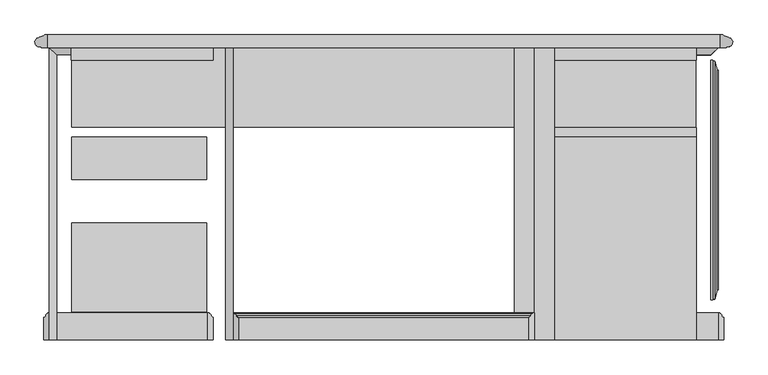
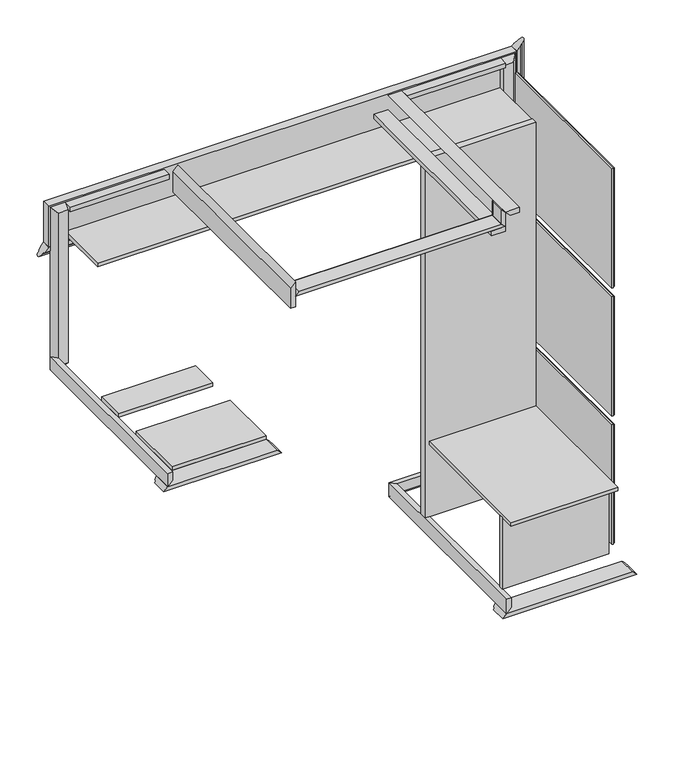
"""IFC4 building model written with IfcOpenShell, lengths in millimetres: proxy geometry, CAMBRIDGE^ADMIN 2_L-SHAPE-PARTS SOLID."""

from ifc_helpers import new_model, si_unit, frame, origin, origin_with_axes, place, context, project, spatial, polyline, ellipse_curve, outline, extrude, faceted_brep, source, transform, mapped, element, save
from ifc_brep_helpers import plane_surface, cylinder_surface, revolved_surface, advanced_brep


def generic_models_f616469e(model_context):
    return source(origin(), model_context, "Body", "SolidModel", [
        faceted_brep([(635.0, -822.325, 1387.475), (631.825, -822.325, 1387.475), (631.825, -53.975, 1387.475), (635.0, -53.975, 1387.475), (623.3176131, -854.075, 1355.725), (623.3176131, -22.225, 1355.725), (615.95, -854.075, 1355.725), (615.95, -22.225, 1355.725), (635.0, -822.325, 1952.625), (631.825, -822.325, 1952.625), (623.3176131, -854.075, 1984.375), (615.95, -854.075, 1984.375), (615.95, -19.05, 1352.55), (615.95, -19.05, 1987.55), (615.95, -857.25, 1987.55), (615.95, -857.25, 1352.55), (615.95, -22.225, 1984.375), (635.0, -53.975, 1952.625), (631.825, -53.975, 1952.625), (623.3176131, -22.225, 1984.375), (609.6, -857.25, 1352.55), (609.6, -19.05, 1352.55), (609.6, -857.25, 1987.55), (609.6, -19.05, 1987.55)], [[[0, 1, 2, 3]], [[1, 4, 5, 2]], [[4, 6, 7, 5]], [[8, 9, 1, 0]], [[9, 10, 4, 1]], [[10, 11, 6, 4]], [[12, 13, 14, 15], [11, 16, 7, 6]], [[17, 18, 9, 8]], [[18, 19, 10, 9]], [[19, 16, 11, 10]], [[3, 2, 18, 17]], [[2, 5, 19, 18]], [[5, 7, 16, 19]], [[12, 15, 20, 21]], [[15, 14, 22, 20]], [[13, 12, 21, 23]], [[14, 13, 23, 22]], [[0, 3, 17, 8]], [[20, 22, 23, 21]]]),
        extrude(outline(polyline([(22.225, -920.75), (22.225, -901.7), (558.8, -901.7), (558.8, -920.75), (22.225, -920.75)])), origin_with_axes(), (0.0, 0.0, 1.0), 381.0),
        extrude(outline(polyline([(2057.4, -6.35), (2032.0, 19.05), (2032.0, 63.5), (2057.4, 63.5), (2057.4, -6.35)])), frame((0.0, -996.95, 0.0), z_axis=(0.0, 1.0, 0.0), x_axis=(0.0, 0.0, 1.0)), (0.0, 0.0, 1.0), 1022.35),
        advanced_brep(
        [(651.8528814, 69.85, 1837.3471186), (655.0531721, 67.2686338, 1834.1468279), (-1721.8531721, 67.2686338, 1834.1468279), (-1718.6528814, 69.85, 1837.3471186), (669.925, 61.8557311, 1819.275), (-1736.725, 61.8557311, 1819.275), (669.925, 60.2682311, 1819.275), (-1736.725, 60.2682311, 1819.275), (668.7910714, 28.5587803, 1820.4089286), (662.8382387, 25.4, 1826.3617613), (-1729.6382387, 25.4, 1826.3617613), (-1735.5910714, 28.5587803, 1820.4089286), (-1708.15, 25.4, 1847.85), (-1708.15, 69.85, 1847.85), (641.35, 25.4, 1847.85), (641.35, 69.85, 1847.85)],
        [
            (0, 1, ellipse_curve(frame((657.225, 73.2356819, 1831.975), z_axis=(0.7071067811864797, 0.0, 0.7071067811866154), x_axis=(-0.7071067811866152, 0.0, 0.7071067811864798)), 8.9802561, 6.35)),
            (1, 2),
            (2, 3, ellipse_curve(frame((-1724.025, 73.2356819, 1831.975), z_axis=(-0.7071067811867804, 0.0, 0.7071067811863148), x_axis=(-0.7071067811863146, 0.0, -0.7071067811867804)), 8.9802561, 6.35)),
            (3, 0),
            (1, 4),
            (4, 5),
            (5, 2),
            (4, 6),
            (6, 7),
            (7, 5),
            (8, 9, ellipse_curve(frame((668.3375, 22.225, 1820.8625), z_axis=(0.7071067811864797, 0.0, 0.7071067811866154), x_axis=(-0.7071067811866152, 0.0, 0.7071067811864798)), 8.9802561, 6.35)),
            (9, 10),
            (10, 11, ellipse_curve(frame((-1735.1375, 22.225, 1820.8625), z_axis=(-0.7071067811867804, 0.0, 0.7071067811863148), x_axis=(-0.7071067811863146, 0.0, -0.7071067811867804)), 8.9802561, 6.35)),
            (11, 8),
            (6, 8, ellipse_curve(frame((669.925, 44.3932311, 1819.275), z_axis=(-0.7071067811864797, 0.0, -0.7071067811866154), x_axis=(-0.7071067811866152, 0.0, 0.7071067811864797)), 22.4506403, 15.875)),
            (11, 7, ellipse_curve(frame((-1736.725, 44.3932311, 1819.275), z_axis=(0.7071067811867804, 0.0, -0.7071067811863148), x_axis=(-0.7071067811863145, 0.0, -0.7071067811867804)), 22.4506403, 15.875)),
            (10, 12),
            (12, 13),
            (13, 3),
            (9, 14),
            (14, 12),
            (14, 15),
            (15, 13),
            (0, 15),
        ],
        [
            revolved_surface(polyline([(-1730.3749999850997, 73.2356819, 1838.3249999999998), (663.5749999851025, 73.2356819, 1838.3249999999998)]), (657.225, 73.2356819, 1831.975), (-1.0, 0.0, 0.0)),
            plane_surface(frame((669.925, 61.8557311, 1819.275), z_axis=(0.0, 0.9396926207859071, -0.3420201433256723), x_axis=(-0.6847910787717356, 0.24924356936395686, 0.6847910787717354))),
            plane_surface(frame((669.925, 60.2682311, 1819.275), z_axis=(0.0, 0.0, -1.0), x_axis=(0.0, 1.0, 0.0))),
            revolved_surface(polyline([(-1741.4874999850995, 22.225, 1814.5125), (674.6874999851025, 22.225, 1814.5125)]), (668.3375, 22.225, 1820.8625), (-1.0, 0.0, 0.0)),
            cylinder_surface(frame((669.925, 44.3932311, 1819.275), z_axis=(-1.0, 0.0, 0.0), x_axis=(0.0, 0.0, -1.0)), 15.875),
            plane_surface(frame((-1752.6, 25.4, 1803.4), z_axis=(-0.7071067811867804, 0.0, 0.7071067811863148), x_axis=(0.7071067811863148, 0.0, 0.7071067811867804))),
            plane_surface(frame((-533.4, 25.4, 1825.625), z_axis=(0.0, -1.0, 0.0), x_axis=(0.0, 0.0, 1.0))),
            plane_surface(frame((-1708.15, 25.4, 1847.85), z_axis=(0.0, 0.0, 1.0), x_axis=(1.0, 0.0, 0.0))),
            plane_surface(frame((641.35, 25.4, 1847.85), z_axis=(0.7071067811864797, 0.0, 0.7071067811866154), x_axis=(0.7071067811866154, 0.0, -0.7071067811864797))),
            plane_surface(frame((-533.4, 69.85, 1825.625), z_axis=(0.0, 1.0, 0.0), x_axis=(0.0, 0.0, 1.0))),
        ],
        [
            (0, [[1, 2, 3, 4]]),
            (1, [[5, 6, 7, -2]]),
            (2, [[8, 9, 10, -6]]),
            (3, [[11, 12, 13, 14]]),
            (4, [[15, -14, 16, -9]]),
            (5, [[-3, -7, -10, -16, -13, 17, 18, 19]]),
            (6, [[-12, 20, 21, -17]]),
            (7, [[-21, 22, 23, -18]]),
            (8, [[-1, 24, -22, -20, -11, -15, -8, -5]]),
            (9, [[-4, -19, -23, -24]]),
        ],
    ),
        extrude(outline(polyline([(-1151.73125, -899.31875), (-1623.21875, -899.31875), (-1623.21875, -587.375), (-1151.73125, -587.375), (-1151.73125, -899.31875)])), frame((0.0, 0.0, 1193.8), z_axis=(0.0, 0.0, 1.0), x_axis=(1.0, 0.0, 0.0)), (0.0, 0.0, 1.0), 19.05),
        extrude(outline(polyline([(558.8, -285.75), (558.8, -996.95), (22.225, -996.95), (22.225, -285.75), (558.8, -285.75)])), frame((0.0, 0.0, 381.0), z_axis=(0.0, 0.0, 1.0), x_axis=(1.0, 0.0, 0.0)), (0.0, 0.0, 1.0), 19.05),
        extrude(outline(polyline([(-6.35, 25.4), (-6.35, -996.95), (-76.2, -996.95), (-76.2, 25.4), (-6.35, 25.4)])), frame((0.0, 0.0, 1955.8), z_axis=(0.0, 0.0, 1.0), x_axis=(1.0, 0.0, 0.0)), (0.0, 0.0, 1.0), 25.4),
        extrude(outline(polyline([(557.2125, -252.4125), (-1624.0125, -252.4125), (-1624.0125, 23.8125), (557.2125, 23.8125), (557.2125, -252.4125)])), frame((0.0, 0.0, 1882.775), z_axis=(0.0, 0.0, 1.0), x_axis=(1.0, 0.0, 0.0)), (0.0, 0.0, 1.0), 19.05),
        faceted_brep([(0.0, 25.4, -76.2), (25.4, 0.0, -50.8), (25.4, -996.95, -50.8), (0.0, -996.95, -76.2), (25.4, -996.95, 0.0), (0.0, -996.95, 0.0), (25.4, 0.0, 0.0), (0.0, 25.4, 0.0)], [[[0, 1, 2, 3]], [[3, 2, 4, 5]], [[2, 1, 6, 4]], [[1, 0, 7, 6]], [[0, 3, 5, 7]], [[6, 7, 5, 4]]]),
        extrude(outline(polyline([(641.35, 25.4), (-1708.15, 25.4), (-1708.15, 69.85), (641.35, 69.85), (641.35, 25.4)])), frame((0.0, 0.0, 1847.85), z_axis=(0.0, 0.0, 1.0), x_axis=(1.0, 0.0, 0.0)), (0.0, 0.0, 1.0), 215.9),
        advanced_brep(
        [(651.8528814, 69.85, 2074.2528814), (655.0531721, 67.2686338, 2077.4531721), (655.0531721, 67.2686338, 1834.1468279), (651.8528814, 69.85, 1837.3471186), (669.925, 61.8557311, 2092.325), (669.925, 61.8557311, 1819.275), (669.925, 60.2682311, 2092.325), (669.925, 60.2682311, 1819.275), (668.7910714, 28.5587803, 2091.1910714), (662.8382387, 25.4, 2085.2382387), (662.8382387, 25.4, 1826.3617613), (668.7910714, 28.5587803, 1820.4089286), (641.35, 25.4, 1847.85), (641.35, 69.85, 1847.85), (641.35, 25.4, 2063.75), (641.35, 69.85, 2063.75)],
        [
            (0, 1, ellipse_curve(frame((657.225, 73.2356819, 2079.625), z_axis=(-0.7071067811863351, 0.0, 0.7071067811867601), x_axis=(-0.7071067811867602, 0.0, -0.7071067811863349)), 8.9802561, 6.35)),
            (1, 2),
            (2, 3, ellipse_curve(frame((657.225, 73.2356819, 1831.975), z_axis=(-0.7071067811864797, 0.0, -0.7071067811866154), x_axis=(0.7071067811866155, 0.0, -0.7071067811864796)), 8.9802561, 6.35)),
            (3, 0),
            (1, 4),
            (4, 5),
            (5, 2),
            (4, 6),
            (6, 7),
            (7, 5),
            (8, 9, ellipse_curve(frame((668.3375, 22.225, 2090.7375), z_axis=(-0.7071067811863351, 0.0, 0.7071067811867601), x_axis=(-0.7071067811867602, 0.0, -0.7071067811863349)), 8.9802561, 6.35)),
            (9, 10),
            (10, 11, ellipse_curve(frame((668.3375, 22.225, 1820.8625), z_axis=(-0.7071067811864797, 0.0, -0.7071067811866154), x_axis=(0.7071067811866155, 0.0, -0.7071067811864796)), 8.9802561, 6.35)),
            (11, 8),
            (6, 8, ellipse_curve(frame((669.925, 44.3932311, 2092.325), z_axis=(0.7071067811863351, 0.0, -0.7071067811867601), x_axis=(-0.7071067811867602, 0.0, -0.7071067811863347)), 22.4506403, 15.875)),
            (11, 7, ellipse_curve(frame((669.925, 44.3932311, 1819.275), z_axis=(0.7071067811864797, 0.0, 0.7071067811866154), x_axis=(0.7071067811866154, 0.0, -0.7071067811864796)), 22.4506403, 15.875)),
            (10, 12),
            (12, 13),
            (13, 3),
            (9, 14),
            (14, 12),
            (14, 15),
            (15, 13),
            (0, 15),
        ],
        [
            revolved_surface(polyline([(650.875, 73.2356819, 1825.6250000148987), (650.875, 73.2356819, 2085.9749999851)]), (657.225, 73.2356819, 2079.625), (0.0, 0.0, -1.0)),
            plane_surface(frame((669.925, 61.8557311, 2092.325), z_axis=(0.3420201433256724, 0.9396926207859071, 0.0), x_axis=(-0.6847910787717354, 0.24924356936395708, -0.6847910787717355))),
            plane_surface(frame((669.925, 60.2682311, 2092.325), z_axis=(1.0, 0.0, 0.0), x_axis=(0.0, 1.0, 0.0))),
            revolved_surface(polyline([(674.6875, 22.225, 1814.5125000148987), (674.6875, 22.225, 2097.0874999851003)]), (668.3375, 22.225, 2090.7375), (0.0, 0.0, -1.0)),
            cylinder_surface(frame((669.925, 44.3932311, 2092.325), z_axis=(0.0, 0.0, -1.0), x_axis=(1.0, 0.0, 0.0)), 15.875),
            plane_surface(frame((685.8, 25.4, 1803.4), z_axis=(-0.7071067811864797, 0.0, -0.7071067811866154), x_axis=(-0.7071067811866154, 0.0, 0.7071067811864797))),
            plane_surface(frame((663.575, 25.4, 1955.8), z_axis=(0.0, -1.0, 0.0), x_axis=(0.0, 0.0, 1.0))),
            plane_surface(frame((641.35, 25.4, 1847.85), z_axis=(-1.0, 0.0, 0.0), x_axis=(0.0, 0.0, 1.0))),
            plane_surface(frame((641.35, 25.4, 2063.75), z_axis=(-0.7071067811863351, 0.0, 0.7071067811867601), x_axis=(0.7071067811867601, 0.0, 0.7071067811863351))),
            plane_surface(frame((663.575, 69.85, 1955.8), z_axis=(0.0, 1.0, 0.0), x_axis=(0.0, 0.0, 1.0))),
        ],
        [
            (0, [[1, 2, 3, 4]]),
            (1, [[5, 6, 7, -2]]),
            (2, [[8, 9, 10, -6]]),
            (3, [[11, 12, 13, 14]]),
            (4, [[15, -14, 16, -9]]),
            (5, [[-3, -7, -10, -16, -13, 17, 18, 19]]),
            (6, [[-12, 20, 21, -17]]),
            (7, [[-21, 22, 23, -18]]),
            (8, [[-1, 24, -22, -20, -11, -15, -8, -5]]),
            (9, [[-4, -19, -23, -24]]),
        ],
    ),
        advanced_brep(
        [(-12.7, -901.7, 1987.55), (-12.7, -904.875, 1987.55), (-12.7, -904.875, 2063.75), (-12.7, -901.7, 2063.75), (-19.05, -911.225, 1993.9), (-19.05, -911.225, 2070.1), (-25.4, -917.575, 2000.25), (-25.4, -917.575, 2076.45), (-25.4, -996.95, 2000.25), (-25.4, -996.95, 2076.45), (-6.35, -901.7, 1981.2), (-6.35, -996.95, 1981.2), (-6.35, -996.95, 2057.4), (-6.35, -901.7, 2057.4)],
        [
            (0, 1),
            (1, 2),
            (2, 3),
            (3, 0),
            (1, 4, ellipse_curve(frame((-12.7, -911.225, 1987.55), z_axis=(0.7071067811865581, 0.0, 0.707106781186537), x_axis=(-0.707106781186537, 0.0, 0.707106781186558)), 8.9802561, 6.35)),
            (4, 5),
            (5, 2, ellipse_curve(frame((-12.7, -911.225, 2063.75), z_axis=(-0.7071067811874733, 0.0, -0.7071067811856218), x_axis=(-0.7071067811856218, 0.0, 0.7071067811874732)), 8.9802561, 6.35)),
            (4, 6, ellipse_curve(frame((-25.4, -911.225, 2000.25), z_axis=(-0.7071067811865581, 0.0, -0.707106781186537), x_axis=(-0.707106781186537, 0.0, 0.707106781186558)), 8.9802561, 6.35)),
            (6, 7),
            (7, 5, ellipse_curve(frame((-25.4, -911.225, 2076.45), z_axis=(0.7071067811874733, 0.0, 0.7071067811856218), x_axis=(-0.7071067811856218, 0.0, 0.7071067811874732)), 8.9802561, 6.35)),
            (6, 8),
            (8, 9),
            (9, 7),
            (0, 10),
            (10, 11),
            (11, 8),
            (12, 11),
            (10, 13),
            (13, 12),
            (9, 12),
            (13, 3),
        ],
        [
            plane_surface(frame((-12.7, -904.875, 1987.55), z_axis=(-1.0, 0.0, 0.0), x_axis=(0.0, 1.0, 0.0))),
            cylinder_surface(frame((-12.7, -911.225, 1987.55), z_axis=(0.0, 0.0, 1.0), x_axis=(1.0, 0.0, 0.0)), 6.35),
            revolved_surface(polyline([(-19.049999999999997, -911.225, 2082.79999998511), (-19.049999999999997, -911.225, 1993.9)]), (-25.4, -911.225, 2000.25), (0.0, 0.0, 1.0)),
            plane_surface(frame((-25.4, -996.95, 2000.25), z_axis=(-1.0, 0.0, 0.0), x_axis=(0.0, 0.0, 1.0))),
            plane_surface(frame((-6.35, -996.95, 1981.2), z_axis=(-0.7071067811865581, 0.0, -0.707106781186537), x_axis=(-0.707106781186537, 0.0, 0.7071067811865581))),
            plane_surface(frame((-6.35, -996.95, 2057.4), z_axis=(1.0, 0.0, 0.0), x_axis=(0.0, 0.0, -1.0))),
            plane_surface(frame((-25.4, -996.95, 2076.45), z_axis=(0.7071067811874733, 0.0, 0.7071067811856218), x_axis=(0.7071067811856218, 0.0, -0.7071067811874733))),
            plane_surface(frame((-15.875, -996.95, 2028.825), z_axis=(0.0, -1.0, 0.0), x_axis=(0.0, 0.0, -1.0))),
            plane_surface(frame((-15.875, -901.7, 2028.825), z_axis=(0.0, 1.0, 0.0), x_axis=(0.0, 0.0, 1.0))),
        ],
        [
            (0, [[1, 2, 3, 4]]),
            (1, [[5, 6, 7, -2]]),
            (2, [[8, 9, 10, -6]]),
            (3, [[-9, 11, 12, 13]]),
            (4, [[-8, -5, -1, 14, 15, 16, -11]]),
            (5, [[17, -15, 18, 19]]),
            (6, [[-10, -13, 20, -19, 21, -3, -7]]),
            (7, [[-12, -16, -17, -20]]),
            (8, [[-4, -21, -18, -14]]),
        ],
    ),
        extrude(outline(polyline([(2057.4, -1060.45), (2032.0, -1085.85), (1924.05, -1085.85), (1924.05, -1060.45), (2057.4, -1060.45)])), frame((0.0, -996.95, 0.0), z_axis=(0.0, 1.0, 0.0), x_axis=(0.0, 0.0, 1.0)), (0.0, 0.0, 1.0), 1022.35),
        advanced_brep(
        [(-1143.0, -901.7, 1187.45), (-1143.0, -904.875, 1187.45), (-1708.15, -904.875, 1187.45), (-1708.15, -901.7, 1187.45), (-1136.65, -911.225, 1181.1), (-1714.5, -911.225, 1181.1), (-1130.3, -917.575, 1174.75), (-1720.85, -917.575, 1174.75), (-1130.3, -996.95, 1174.75), (-1720.85, -996.95, 1174.75), (-1149.35, -901.7, 1193.8), (-1149.35, -996.95, 1193.8), (-1701.8, -996.95, 1193.8), (-1701.8, -901.7, 1193.8)],
        [
            (0, 1),
            (1, 2),
            (2, 3),
            (3, 0),
            (1, 4, ellipse_curve(frame((-1143.0, -911.225, 1187.45), z_axis=(-0.7071067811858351, 0.0, -0.70710678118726), x_axis=(-0.7071067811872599, 0.0, 0.707106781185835)), 8.9802561, 6.35)),
            (4, 5),
            (5, 2, ellipse_curve(frame((-1708.15, -911.225, 1187.45), z_axis=(0.7071067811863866, 0.0, -0.7071067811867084), x_axis=(-0.7071067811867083, 0.0, -0.7071067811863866)), 8.9802561, 6.35)),
            (4, 6, ellipse_curve(frame((-1130.3, -911.225, 1174.75), z_axis=(0.7071067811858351, 0.0, 0.70710678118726), x_axis=(-0.7071067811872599, 0.0, 0.707106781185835)), 8.9802561, 6.35)),
            (6, 7),
            (7, 5, ellipse_curve(frame((-1720.85, -911.225, 1174.75), z_axis=(-0.7071067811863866, 0.0, 0.7071067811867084), x_axis=(-0.7071067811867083, 0.0, -0.7071067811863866)), 8.9802561, 6.35)),
            (6, 8),
            (8, 9),
            (9, 7),
            (0, 10),
            (10, 11),
            (11, 8),
            (12, 11),
            (10, 13),
            (13, 12),
            (9, 12),
            (13, 3),
        ],
        [
            plane_surface(frame((-1143.0, -904.875, 1187.45), z_axis=(0.0, 0.0, -1.0), x_axis=(0.0, 1.0, 0.0))),
            cylinder_surface(frame((-1143.0, -911.225, 1187.45), z_axis=(-1.0, 0.0, 0.0), x_axis=(0.0, 0.0, 1.0)), 6.35),
            revolved_surface(polyline([(-1727.1999999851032, -911.225, 1181.1), (-1123.9500000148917, -911.225, 1181.1)]), (-1130.3, -911.225, 1174.75), (-1.0, 0.0, 0.0)),
            plane_surface(frame((-1130.3, -996.95, 1174.75), z_axis=(0.0, 0.0, -1.0), x_axis=(-1.0, 0.0, 0.0))),
            plane_surface(frame((-1149.35, -996.95, 1193.8), z_axis=(0.7071067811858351, 0.0, 0.70710678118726), x_axis=(0.70710678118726, 0.0, -0.7071067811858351))),
            plane_surface(frame((-1701.8, -996.95, 1193.8), z_axis=(0.0, 0.0, 1.0), x_axis=(1.0, 0.0, 0.0))),
            plane_surface(frame((-1720.85, -996.95, 1174.75), z_axis=(-0.7071067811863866, 0.0, 0.7071067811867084), x_axis=(0.7071067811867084, 0.0, 0.7071067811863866))),
            plane_surface(frame((-1425.575, -996.95, 1184.275), z_axis=(0.0, -1.0, 0.0), x_axis=(0.0, 0.0, -1.0))),
            plane_surface(frame((-1425.575, -901.7, 1184.275), z_axis=(0.0, 1.0, 0.0), x_axis=(0.0, 0.0, 1.0))),
        ],
        [
            (0, [[1, 2, 3, 4]]),
            (1, [[5, 6, 7, -2]]),
            (2, [[8, 9, 10, -6]]),
            (3, [[-9, 11, 12, 13]]),
            (4, [[-8, -5, -1, 14, 15, 16, -11]]),
            (5, [[17, -15, 18, 19]]),
            (6, [[-10, -13, 20, -19, 21, -3, -7]]),
            (7, [[-12, -16, -17, -20]]),
            (8, [[-4, -21, -18, -14]]),
        ],
    ),
        faceted_brep([(635.0, -822.325, 708.025), (631.825, -822.325, 708.025), (631.825, -53.975, 708.025), (635.0, -53.975, 708.025), (623.3176131, -854.075, 676.275), (623.3176131, -22.225, 676.275), (615.95, -854.075, 676.275), (615.95, -22.225, 676.275), (635.0, -822.325, 1273.175), (631.825, -822.325, 1273.175), (623.3176131, -854.075, 1304.925), (615.95, -854.075, 1304.925), (615.95, -19.05, 673.1), (615.95, -19.05, 1308.1), (615.95, -857.25, 1308.1), (615.95, -857.25, 673.1), (615.95, -22.225, 1304.925), (635.0, -53.975, 1273.175), (631.825, -53.975, 1273.175), (623.3176131, -22.225, 1304.925), (609.6, -857.25, 673.1), (609.6, -19.05, 673.1), (609.6, -857.25, 1308.1), (609.6, -19.05, 1308.1)], [[[0, 1, 2, 3]], [[1, 4, 5, 2]], [[4, 6, 7, 5]], [[8, 9, 1, 0]], [[9, 10, 4, 1]], [[10, 11, 6, 4]], [[12, 13, 14, 15], [11, 16, 7, 6]], [[17, 18, 9, 8]], [[18, 19, 10, 9]], [[19, 16, 11, 10]], [[3, 2, 18, 17]], [[2, 5, 19, 18]], [[5, 7, 16, 19]], [[12, 15, 20, 21]], [[15, 14, 22, 20]], [[13, 12, 21, 23]], [[14, 13, 23, 22]], [[0, 3, 17, 8]], [[20, 22, 23, 21]]]),
        faceted_brep([(-1676.4, 0.0, 1219.2), (-1676.4, 0.0, 1263.65), (-1676.4, -996.95, 1263.65), (-1676.4, -996.95, 1219.2), (-1701.8, 25.4, 1263.65), (-1701.8, -996.95, 1263.65), (-1701.8, 25.4, 1193.8), (-1701.8, -996.95, 1193.8)], [[[0, 1, 2, 3]], [[1, 4, 5, 2]], [[4, 6, 7, 5]], [[6, 0, 3, 7]], [[3, 2, 5, 7]], [[4, 1, 0, 6]]]),
        faceted_brep([(-1676.4, 0.0, 1219.2), (-1625.6, 0.0, 1219.2), (-1625.6, 0.0, 2032.0), (-1676.4, 0.0, 2032.0), (-1625.6, 25.4, 1193.8), (-1625.6, 25.4, 2057.4), (-1701.8, 25.4, 1193.8), (-1701.8, 25.4, 2057.4)], [[[0, 1, 2, 3]], [[1, 4, 5, 2]], [[4, 6, 7, 5]], [[6, 0, 3, 7]], [[2, 5, 7, 3]], [[4, 1, 0, 6]]]),
        faceted_brep([(25.4, 0.0, -50.8), (0.0, 25.4, -76.2), (635.0, 25.4, -76.2), (609.6, 0.0, -50.8), (558.8, 0.0, 0.0), (25.4, 0.0, 0.0), (558.8, 25.4, 0.0), (0.0, 25.4, 0.0)], [[[0, 1, 2, 3]], [[0, 3, 4, 5]], [[3, 2, 6, 4]], [[6, 2, 1, 7]], [[1, 0, 5, 7]], [[4, 6, 7, 5]]]),
        extrude(outline(polyline([(558.8, 25.4), (558.8, -19.05), (63.5, -19.05), (63.5, 25.4), (558.8, 25.4)])), frame((0.0, 0.0, 2032.0), z_axis=(0.0, 0.0, 1.0), x_axis=(1.0, 0.0, 0.0)), (0.0, 0.0, 1.0), 25.4),
        extrude(outline(polyline([(-1151.73125, -435.371875), (-1623.21875, -435.371875), (-1623.21875, -288.13125), (-1151.73125, -288.13125), (-1151.73125, -435.371875)])), frame((0.0, 0.0, 1193.8), z_axis=(0.0, 0.0, 1.0), x_axis=(1.0, 0.0, 0.0)), (0.0, 0.0, 1.0), 19.05),
        faceted_brep([(558.8, 25.4, 2057.4), (558.8, 0.0, 2032.0), (609.6, 0.0, 2032.0), (635.0, 25.4, 2057.4), (609.6, 0.0, -50.8), (635.0, 25.4, -76.2), (558.8, 0.0, 0.0), (558.8, 25.4, 0.0)], [[[0, 1, 2, 3]], [[3, 2, 4, 5]], [[2, 1, 6, 4]], [[1, 0, 7, 6]], [[5, 4, 6, 7]], [[5, 7, 0, 3]]]),
        extrude(outline(polyline([(0.0, -254.0), (558.8, -254.0), (558.8, -285.75), (0.0, -285.75), (0.0, -254.0)])), origin_with_axes(), (0.0, 0.0, 1.0), 1905.0),
        extrude(outline(polyline([(-1130.3, 25.4), (-1130.3, -19.05), (-1625.6, -19.05), (-1625.6, 25.4), (-1130.3, 25.4)])), frame((0.0, 0.0, 2032.0), z_axis=(0.0, 0.0, 1.0), x_axis=(1.0, 0.0, 0.0)), (0.0, 0.0, 1.0), 25.4),
        advanced_brep(
        [(641.35, -901.7, -82.55), (641.35, -904.875, -82.55), (-6.35, -904.875, -82.55), (-6.35, -901.7, -82.55), (647.7, -911.225, -88.9), (-12.7, -911.225, -88.9), (654.05, -917.575, -95.25), (-19.05, -917.575, -95.25), (654.05, -996.95, -95.25), (-19.05, -996.95, -95.25), (635.0, -901.7, -76.2), (635.0, -996.95, -76.2), (0.0, -996.95, -76.2), (0.0, -901.7, -76.2)],
        [
            (0, 1),
            (1, 2),
            (2, 3),
            (3, 0),
            (1, 4, ellipse_curve(frame((641.35, -911.225, -82.55), z_axis=(-0.7071067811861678, 0.0, -0.7071067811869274), x_axis=(-0.7071067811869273, 0.0, 0.7071067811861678)), 8.9802561, 6.35)),
            (4, 5),
            (5, 2, ellipse_curve(frame((-6.35, -911.225, -82.55), z_axis=(0.7071067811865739, 0.0, -0.7071067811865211), x_axis=(-0.707106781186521, 0.0, -0.7071067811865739)), 8.9802561, 6.35)),
            (4, 6, ellipse_curve(frame((654.05, -911.225, -95.25), z_axis=(0.7071067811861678, 0.0, 0.7071067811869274), x_axis=(-0.7071067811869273, 0.0, 0.7071067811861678)), 8.9802561, 6.35)),
            (6, 7),
            (7, 5, ellipse_curve(frame((-19.05, -911.225, -95.25), z_axis=(-0.7071067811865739, 0.0, 0.7071067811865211), x_axis=(-0.707106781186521, 0.0, -0.7071067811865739)), 8.9802561, 6.35)),
            (6, 8),
            (8, 9),
            (9, 7),
            (0, 10),
            (10, 11),
            (11, 8),
            (12, 11),
            (10, 13),
            (13, 12),
            (9, 12),
            (13, 3),
        ],
        [
            plane_surface(frame((641.35, -904.875, -82.55), z_axis=(0.0, 0.0, -1.0), x_axis=(0.0, 1.0, 0.0))),
            cylinder_surface(frame((641.35, -911.225, -82.55), z_axis=(-1.0, 0.0, 0.0), x_axis=(0.0, 0.0, 1.0)), 6.35),
            revolved_surface(polyline([(-25.399999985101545, -911.225, -88.9), (660.3999999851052, -911.225, -88.9)]), (654.05, -911.225, -95.25), (-1.0, 0.0, 0.0)),
            plane_surface(frame((654.05, -996.95, -95.25), z_axis=(0.0, 0.0, -1.0), x_axis=(-1.0, 0.0, 0.0))),
            plane_surface(frame((635.0, -996.95, -76.2), z_axis=(0.7071067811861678, 0.0, 0.7071067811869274), x_axis=(0.7071067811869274, 0.0, -0.7071067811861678))),
            plane_surface(frame((0.0, -996.95, -76.2), z_axis=(0.0, 0.0, 1.0), x_axis=(1.0, 0.0, 0.0))),
            plane_surface(frame((-19.05, -996.95, -95.25), z_axis=(-0.7071067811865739, 0.0, 0.7071067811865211), x_axis=(0.7071067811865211, 0.0, 0.7071067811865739))),
            plane_surface(frame((317.5, -996.95, -85.725), z_axis=(0.0, -1.0, 0.0), x_axis=(0.0, 0.0, -1.0))),
            plane_surface(frame((317.5, -901.7, -85.725), z_axis=(0.0, 1.0, 0.0), x_axis=(0.0, 0.0, 1.0))),
        ],
        [
            (0, [[1, 2, 3, 4]]),
            (1, [[5, 6, 7, -2]]),
            (2, [[8, 9, 10, -6]]),
            (3, [[-9, 11, 12, 13]]),
            (4, [[-8, -5, -1, 14, 15, 16, -11]]),
            (5, [[17, -15, 18, 19]]),
            (6, [[-10, -13, 20, -19, 21, -3, -7]]),
            (7, [[-12, -16, -17, -20]]),
            (8, [[-4, -21, -18, -14]]),
        ],
    ),
        faceted_brep([(635.0, -822.325, 28.575), (631.825, -822.325, 28.575), (631.825, -53.975, 28.575), (635.0, -53.975, 28.575), (623.3176131, -854.075, -3.175), (623.3176131, -22.225, -3.175), (615.95, -854.075, -3.175), (615.95, -22.225, -3.175), (635.0, -822.325, 593.725), (631.825, -822.325, 593.725), (623.3176131, -854.075, 625.475), (615.95, -854.075, 625.475), (615.95, -19.05, -6.35), (615.95, -19.05, 628.65), (615.95, -857.25, 628.65), (615.95, -857.25, -6.35), (615.95, -22.225, 625.475), (635.0, -53.975, 593.725), (631.825, -53.975, 593.725), (623.3176131, -22.225, 625.475), (609.6, -857.25, -6.35), (609.6, -19.05, -6.35), (609.6, -857.25, 628.65), (609.6, -19.05, 628.65)], [[[0, 1, 2, 3]], [[1, 4, 5, 2]], [[4, 6, 7, 5]], [[8, 9, 1, 0]], [[9, 10, 4, 1]], [[10, 11, 6, 4]], [[12, 13, 14, 15], [11, 16, 7, 6]], [[17, 18, 9, 8]], [[18, 19, 10, 9]], [[19, 16, 11, 10]], [[3, 2, 18, 17]], [[2, 5, 19, 18]], [[5, 7, 16, 19]], [[12, 15, 20, 21]], [[15, 14, 22, 20]], [[13, 12, 21, 23]], [[14, 13, 23, 22]], [[0, 3, 17, 8]], [[20, 22, 23, 21]]]),
        advanced_brep(
        [(-1054.1, -901.7, 1987.55), (-1054.1, -904.875, 1987.55), (-12.7, -904.875, 1987.55), (-12.7, -901.7, 1987.55), (-1047.75, -911.225, 1993.9), (-19.05, -911.225, 1993.9), (-1041.4, -917.575, 2000.25), (-25.4, -917.575, 2000.25), (-1041.4, -996.95, 2000.25), (-25.4, -996.95, 2000.25), (-1060.45, -901.7, 1981.2), (-1060.45, -996.95, 1981.2), (-6.35, -996.95, 1981.2), (-6.35, -901.7, 1981.2)],
        [
            (0, 1),
            (1, 2),
            (2, 3),
            (3, 0),
            (1, 4, ellipse_curve(frame((-1054.1, -911.225, 1987.55), z_axis=(0.7071067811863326, 0.0, -0.7071067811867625), x_axis=(0.7071067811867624, 0.0, 0.7071067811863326)), 8.9802561, 6.35)),
            (4, 5),
            (5, 2, ellipse_curve(frame((-12.7, -911.225, 1987.55), z_axis=(-0.7071067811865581, 0.0, -0.707106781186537), x_axis=(0.7071067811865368, 0.0, -0.7071067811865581)), 8.9802561, 6.35)),
            (4, 6, ellipse_curve(frame((-1041.4, -911.225, 2000.25), z_axis=(-0.7071067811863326, 0.0, 0.7071067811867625), x_axis=(0.7071067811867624, 0.0, 0.7071067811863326)), 8.9802561, 6.35)),
            (6, 7),
            (7, 5, ellipse_curve(frame((-25.4, -911.225, 2000.25), z_axis=(0.7071067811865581, 0.0, 0.707106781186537), x_axis=(0.7071067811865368, 0.0, -0.7071067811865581)), 8.9802561, 6.35)),
            (6, 8),
            (8, 9),
            (9, 7),
            (0, 10),
            (10, 11),
            (11, 8),
            (9, 12),
            (12, 13),
            (13, 3),
            (12, 11),
            (10, 13),
        ],
        [
            plane_surface(frame((-1054.1, -904.875, 1987.55), z_axis=(0.0, 0.0, 1.0), x_axis=(0.0, 1.0, 0.0))),
            cylinder_surface(frame((-1054.1, -911.225, 1987.55), z_axis=(1.0, 0.0, 0.0), x_axis=(0.0, 0.0, -1.0)), 6.35),
            revolved_surface(polyline([(-19.049999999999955, -911.225, 1993.9), (-1047.75, -911.225, 1993.9)]), (-1041.4, -911.225, 2000.25), (1.0, 0.0, 0.0)),
            plane_surface(frame((-1041.4, -996.95, 2000.25), z_axis=(0.0, 0.0, 1.0), x_axis=(1.0, 0.0, 0.0))),
            plane_surface(frame((-1060.45, -996.95, 1981.2), z_axis=(-0.7071067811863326, 0.0, 0.7071067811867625), x_axis=(0.7071067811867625, 0.0, 0.7071067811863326))),
            plane_surface(frame((-25.4, -996.95, 2000.25), z_axis=(0.7071067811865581, 0.0, 0.707106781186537), x_axis=(0.707106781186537, 0.0, -0.7071067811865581))),
            plane_surface(frame((-6.35, -996.95, 1981.2), z_axis=(0.0, 0.0, -1.0), x_axis=(-1.0, 0.0, 0.0))),
            plane_surface(frame((-533.4, -996.95, 1990.725), z_axis=(0.0, -1.0, 0.0), x_axis=(0.0, 0.0, -1.0))),
            plane_surface(frame((-533.4, -901.7, 1990.725), z_axis=(0.0, 1.0, 0.0), x_axis=(0.0, 0.0, 1.0))),
        ],
        [
            (0, [[1, 2, 3, 4]]),
            (1, [[5, 6, 7, -2]]),
            (2, [[8, 9, 10, -6]]),
            (3, [[-9, 11, 12, 13]]),
            (4, [[-8, -5, -1, 14, 15, 16, -11]]),
            (5, [[-10, -13, 17, 18, 19, -3, -7]]),
            (6, [[20, -15, 21, -18]]),
            (7, [[-20, -17, -12, -16]]),
            (8, [[-4, -19, -21, -14]]),
        ],
    ),
    ])


if __name__ == "__main__":
    model = new_model("IFC4")
    model_context = context("Model", 3, world=origin())
    ifc_project = project(units=[si_unit("LENGTHUNIT", "METRE", prefix="MILLI")], contexts=[model_context])
    site = spatial("IfcSite", under=ifc_project)
    building = spatial("IfcBuilding", under=site)
    placement = place(None, origin())
    generic_models_shape = generic_models_f616469e(model_context)
    element("IfcBuildingElementProxy", 1, Name="CAMBRIDGE^ADMIN 2_L-SHAPE-PARTS SOLID", ObjectType="CAMBRIDGE^ADMIN 2_L-SHAPE-PARTS SOLID", at=placement, inside=building, context=model_context, shape_type="MappedRepresentation", body=[
        mapped(generic_models_shape, transform((0.0, 0.0, 0.0), x_axis=(1.0, 0.0, 0.0), y_axis=(0.0, 1.0, 0.0), z_axis=(0.0, 0.0, 1.0))),
    ])
    save(model, "model.ifc")
